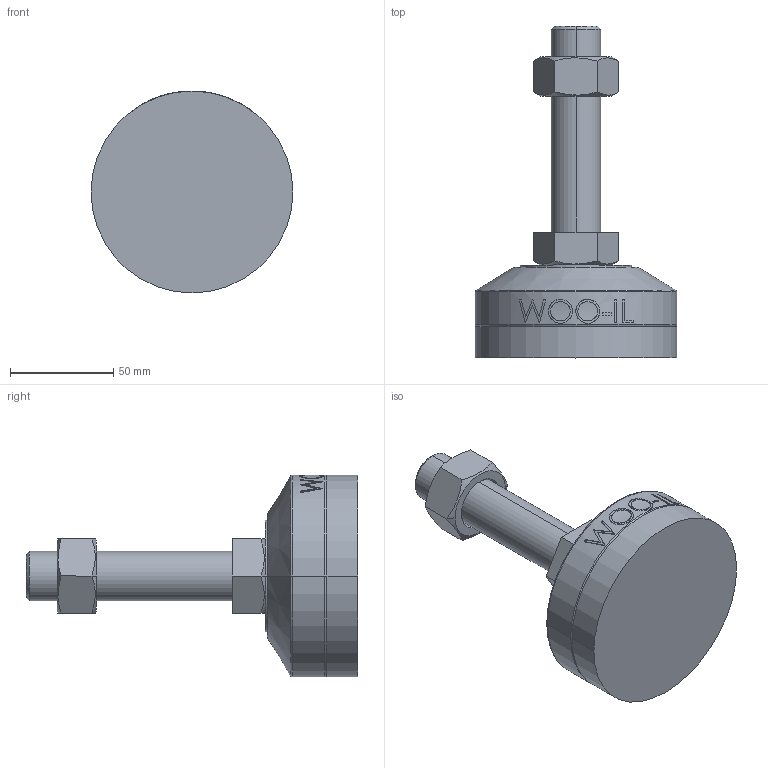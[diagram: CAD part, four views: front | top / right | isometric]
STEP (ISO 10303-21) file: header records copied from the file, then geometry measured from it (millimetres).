
FILE_DESCRIPTION (( 'STEP AP214' ), '1' );
FILE_NAME ('MFR98-M24-100.step', '2021-01-13T05:40:41', ( '' ), ( '' ), 'SwSTEP 2.0', 'SolidWorks 2019', '' );
FILE_SCHEMA (( 'AUTOMOTIVE_DESIGN' ));
Length unit declared in the file: millimetre
Products named in the file (2): MFR98-M24-100
Bounding box: 98 x 161 x 98 mm (x, y, z)
Volume: 380218.8 mm3; surface area: 57524.3 mm2
Topology: 4 solids, 4 shells, 103 faces, 235 edges, 150 vertices
Faces by surface type: plane 49, cylinder 18, bspline 16, cone 14, torus 6
Entity records: 4617 total; most frequent: CARTESIAN_POINT 2344, ORIENTED_EDGE 470, DIRECTION 417, EDGE_CURVE 235, AXIS2_PLACEMENT_3D 159, VERTEX_POINT 150, EDGE_LOOP 115, ADVANCED_FACE 103
